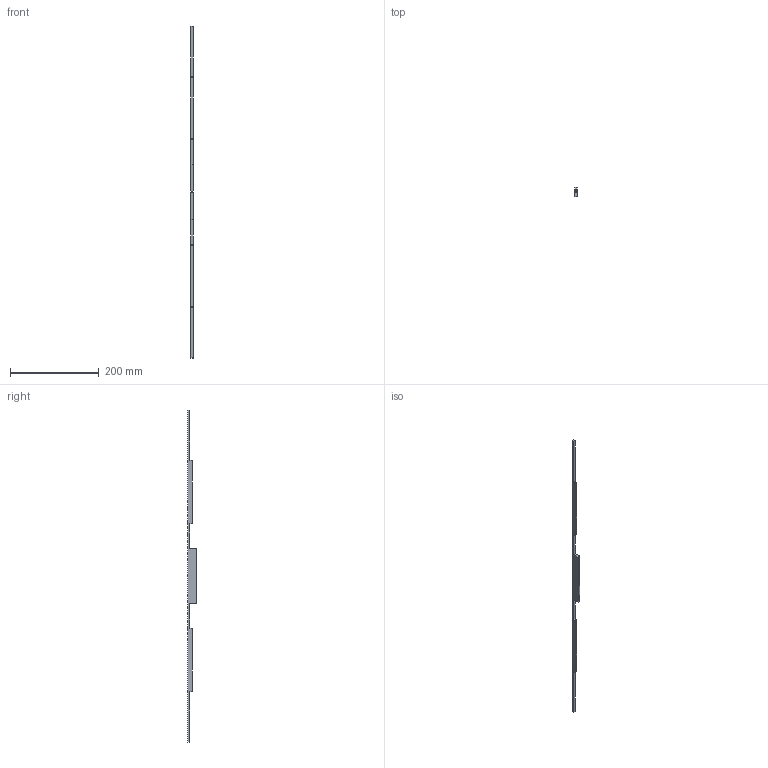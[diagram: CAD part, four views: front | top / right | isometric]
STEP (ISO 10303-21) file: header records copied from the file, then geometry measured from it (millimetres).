
FILE_DESCRIPTION((''),'2;1');
FILE_NAME('0000187056','2024-01-04T12:30:11',('Wyndorps'),(''),'CREO PARAMETRIC BY PTC INC, 2022484','CREO PARAMETRIC BY PTC INC, 2022484','');
FILE_SCHEMA(('CONFIG_CONTROL_DESIGN'));
Length unit declared in the file: millimetre
Products named in the file (1): 0000187056
Bounding box: 5 x 20 x 750 mm (x, y, z)
Volume: 35036.8 mm3; surface area: 22883.7 mm2
Topology: 1 solids, 6 shells, 46 faces, 154 edges, 104 vertices
Faces by surface type: cylinder 28, plane 18
Entity records: 1782 total; most frequent: CARTESIAN_POINT 355, DIRECTION 306, ORIENTED_EDGE 272, EDGE_CURVE 150, AXIS2_PLACEMENT_3D 111, VERTEX_POINT 102, VECTOR 84, LINE 84
